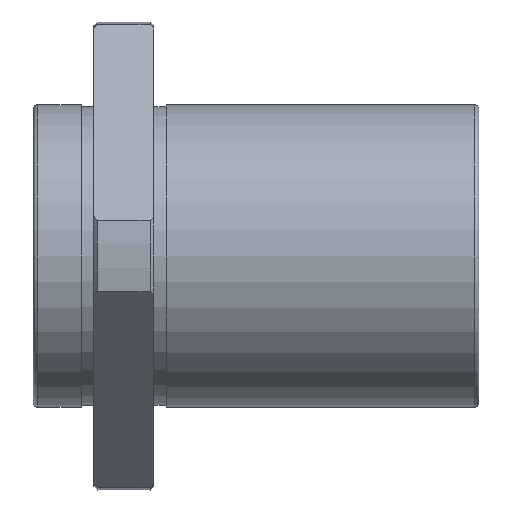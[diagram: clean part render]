
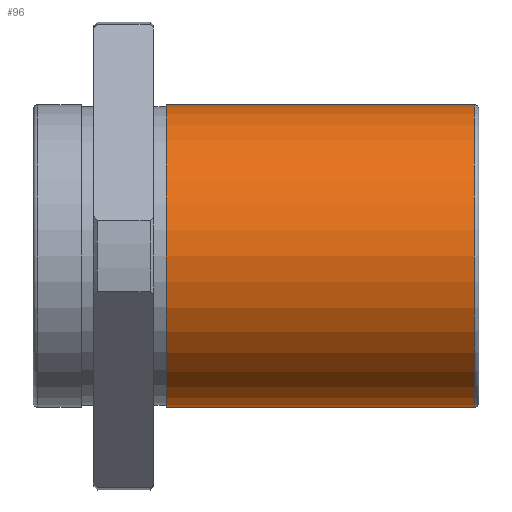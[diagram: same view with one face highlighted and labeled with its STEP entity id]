
A CAD part, front view. The second image highlights one B-rep face of the part: STEP entity #96.
In plain terms, the highlighted cylindrical face has radius 20 mm (diameter 40 mm), a full revolution.
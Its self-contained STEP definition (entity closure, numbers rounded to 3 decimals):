
#96=ADVANCED_FACE('',(#181,#182),#183,.T.);
#181=FACE_OUTER_BOUND('',#296,.T.);
#182=FACE_OUTER_BOUND('',#297,.T.);
#183=CYLINDRICAL_SURFACE('',#298,20.0);
#296=EDGE_LOOP('',(#496));
#297=EDGE_LOOP('',(#497));
#298=AXIS2_PLACEMENT_3D('',#498,#499,#500);
#496=ORIENTED_EDGE('',*,*,#684,.T.);
#497=ORIENTED_EDGE('',*,*,#659,.T.);
#498=CARTESIAN_POINT('',(43.0,0.,0.));
#499=DIRECTION('',(1.0,0.,0.));
#500=DIRECTION('',(0.,-1.0,0.));
#659=EDGE_CURVE('',#766,#766,#767,.F.);
#684=EDGE_CURVE('',#813,#813,#814,.T.);
#766=VERTEX_POINT('',#942);
#767=CIRCLE('',#943,20.0);
#813=VERTEX_POINT('',#994);
#814=CIRCLE('',#995,20.0);
#942=CARTESIAN_POINT('',(42.4,0.,-20.0));
#943=AXIS2_PLACEMENT_3D('',#1092,#1093,#1094);
#994=CARTESIAN_POINT('',(1.6,0.,-20.0));
#995=AXIS2_PLACEMENT_3D('',#1160,#1161,#1162);
#1092=CARTESIAN_POINT('',(42.4,0.,0.));
#1093=DIRECTION('',(1.0,0.,0.));
#1094=DIRECTION('',(0.,0.0,-1.0));
#1160=CARTESIAN_POINT('',(1.6,0.,0.));
#1161=DIRECTION('',(1.0,0.,0.));
#1162=DIRECTION('',(0.,0.0,-1.0));
